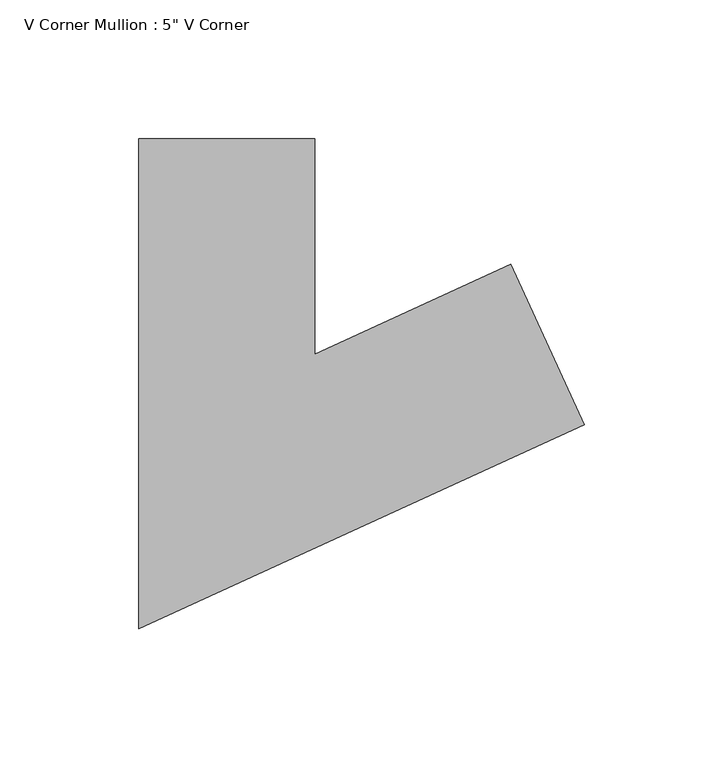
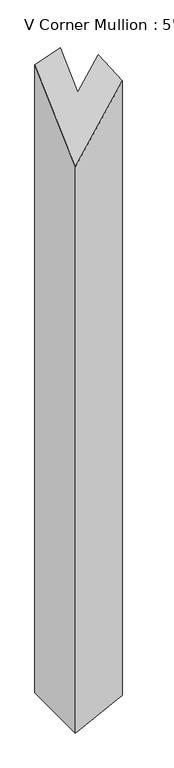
"""IFC4 building model written with IfcOpenShell, lengths in millimetres: member geometry."""

from ifc_helpers import new_model, si_unit, origin, place, context, project, spatial, faceted_brep, source, transform, mapped, element, save


def member_b84f6d6b(model_context):
    return source(origin(), model_context, "Body", "Brep", [
        faceted_brep([(87.9205542, -39.5195451, -1640.68125), (-72.5228811, -112.9476953, -1640.68125), (-72.5228811, 63.5, -1640.68125), (-9.0228811, 63.5, -1640.68125), (-9.0228811, -14.0523047, -1640.68125), (61.49523, 18.2208415, -1640.68125), (61.49523, 18.2208415, 39.5542492), (87.9205542, -39.5195451, -4.4262519), (-9.0228811, -14.0523047, -16.385454), (-9.0228811, 63.5, 55.7349657), (-72.5228811, 63.5, 32.3882586), (-72.5228811, -112.9476953, -131.7007633)], [[[0, 1, 2, 3, 4, 5]], [[6, 7, 0, 5]], [[8, 6, 5, 4]], [[9, 8, 4, 3]], [[10, 9, 3, 2]], [[11, 10, 2, 1]], [[7, 11, 1, 0]], [[7, 6, 8, 9, 10, 11]]]),
    ])


if __name__ == "__main__":
    model = new_model("IFC4")
    model_context = context("Model", 3, world=origin())
    ifc_project = project(units=[si_unit("LENGTHUNIT", "METRE", prefix="MILLI")], contexts=[model_context])
    site = spatial("IfcSite", under=ifc_project)
    building = spatial("IfcBuilding", under=site)
    placement = place(None, origin())
    member_shape = member_b84f6d6b(model_context)
    element("IfcMember", 1, ObjectType="V Corner Mullion : 5\" V Corner", at=placement, inside=building, context=model_context, shape_type="MappedRepresentation", body=[
        mapped(member_shape, transform((0.0, 0.0, 0.0), x_axis=(1.0, 0.0, 0.0), y_axis=(0.0, 1.0, 0.0), z_axis=(0.0, 0.0, 1.0))),
    ])
    save(model, "model.ifc")
